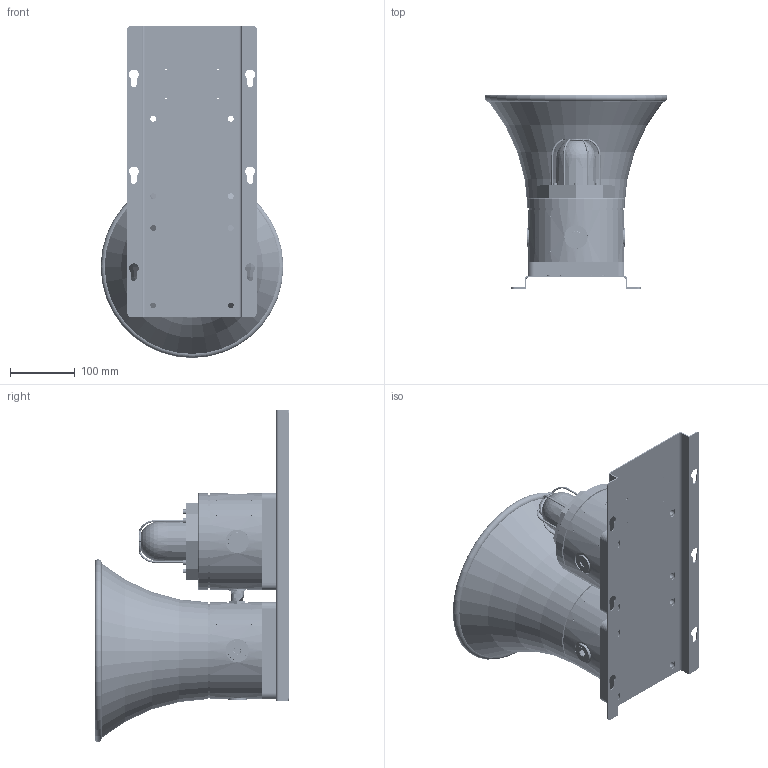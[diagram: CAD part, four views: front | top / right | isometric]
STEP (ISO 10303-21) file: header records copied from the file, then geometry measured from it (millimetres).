
FILE_DESCRIPTION((''),'2;1');
FILE_NAME('0-SB150-TYPE2_ASM','2015-12-21T',('Administrator'),(''),'PRO/ENGINEER BY PARAMETRIC TECHNOLOGY CORPORATION, 2008090','PRO/ENGINEER BY PARAMETRIC TECHNOLOGY CORPORATION, 2008090','');
FILE_SCHEMA(('CONFIG_CONTROL_DESIGN'));
Length unit declared in the file: millimetre
Products named in the file (40): 50020210264; 55060250101; 55050250104; 50050250106; 50050250105; 50500280237; 55100110920; M4-15; 50000010301-M5; UPPER-CASE; BASE-COVER; ASM0001_ASM; 50060120606; TEMINAL-4; NEW-SOUNDER-PCB-PLAT; SWITCH-A; SWITCH-B; SWITCH-C; SWITCH-D; NEW-SOUNDER-PCB_ASM; NEW-LOGO; 0-SD150-W_ASM; 55060250102; 50060210109; 50060210110; 55060170103; 55060250108; 50060150601; 50050280202; 55060110205; M4-10; 0-BC150_ASM; 55020110203; LINE-9; 51872010006; 50020110207; 0-CT20_ASM; 55020210228; 50020110229; 0-SB150-TYPE2_ASM
Assembly tree (67 placements, depth 4):
  0-SB150-TYPE2_ASM
    50020210264
    0-SD150-W_ASM
      55060250101
      55050250104
      50050250106
      50050250105
      50500280237
      55100110920  x3
      M4-15  x3
      50000010301-M5  x6
      ASM0001_ASM
        UPPER-CASE
        BASE-COVER
      NEW-SOUNDER-PCB_ASM
        50060120606
        TEMINAL-4
        NEW-SOUNDER-PCB-PLAT
        SWITCH-A
        SWITCH-B
        SWITCH-C
        SWITCH-D  x4
      NEW-LOGO
    0-BC150_ASM
      55060250101
      55060250102
      50060210109
      50060210110
      55060170103
      55060250108
      50060150601
      50050280202
      55060110205  x3
      50000010301-M5  x6
      M4-10  x6
    0-CT20_ASM
      55020110203
      LINE-9
      51872010006  x2
      50020110207  x2
    55020210228
    50020110229
Bounding box: 282.76 x 300 x 513.88 mm (x, y, z)
Volume: 4388813.1 mm3; surface area: 1225106.8 mm2
Topology: 70 solids, 165 shells, 11574 faces, 31404 edges, 20602 vertices
Faces by surface type: plane 8715, cylinder 1429, cone 536, torus 403, bspline 330, sphere 161
Entity records: 279316 total; most frequent: CARTESIAN_POINT 82525, ORIENTED_EDGE 42380, DIRECTION 37643, EDGE_CURVE 21305, VECTOR 16113, LINE 16113, VERTEX_POINT 13979, AXIS2_PLACEMENT_3D 10765
